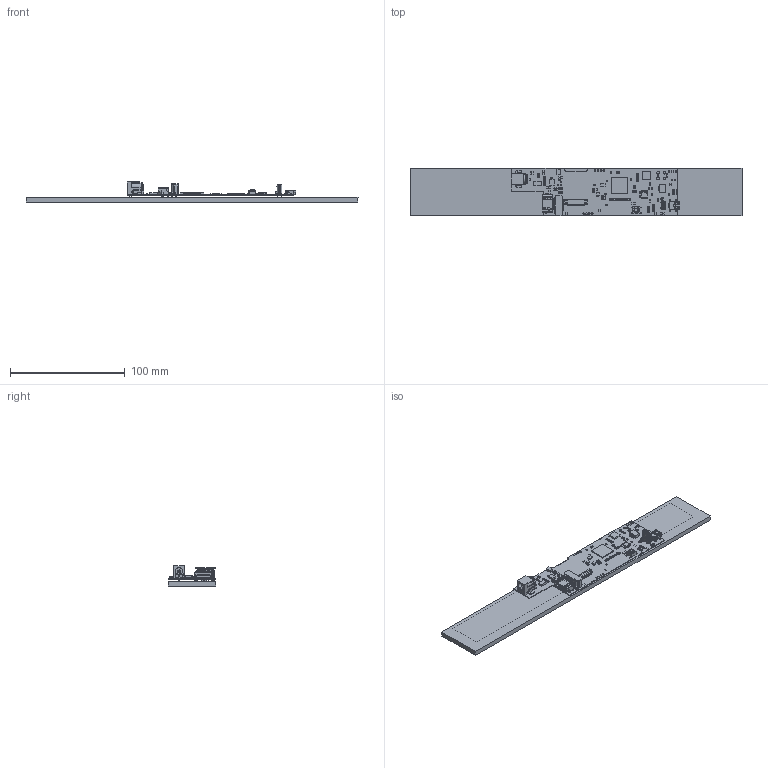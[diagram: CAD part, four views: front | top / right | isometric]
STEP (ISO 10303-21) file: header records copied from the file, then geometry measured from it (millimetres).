
FILE_DESCRIPTION(/* description */ (''),/* implementation_level */ '2;1');
FILE_NAME(/* name */ 'C:/Documents (New)/trunk/Drawings/HTT104/HTT104A-TPN.step',/* time_stamp */ '2018-01-26T13:27:10-07:00',/* author */ ('supportL2JBS'),/* organization */ (''),/* preprocessor_version */ 'ST-DEVELOPER v16.13',/* originating_system */ 'Autodesk Translation Framework v6.5.0.72',/* authorisation */ '');
FILE_SCHEMA (('AUTOMOTIVE_DESIGN { 1 0 10303 214 3 1 1 }'));
Products named in the file (196): HTT104A; Board; J3; 476591002; Open CASCADE STEP translator 6.2 2.2.1; Open CASCADE STEP translator 6.2 2.2.1 (1); J4; FCI_10029449-001LF; 10029450; 10029451_001_ASM; 10029452-001_FLAT; 10029452-001_FLAT_1; 10029452-001_FLAT_2; 10029452-001_FLAT_3; 10029452-001_FLAT_4; 10029452-001_FLAT_5; 10029452-001_FLAT_6; 10029452-001_FLAT_7; 10029452-001_FLAT_8; 10029452-001_FLAT_9; 10029452-002_FLAT; 10029452-002_FLAT_1; 10029452-002_FLAT_2; 10029452-002_FLAT_3; 10029452-002_FLAT_4; 10029452-002_FLAT_5; 10029452-002_FLAT_6; 10029452-002_FLAT_7; 10029452-002_FLAT_8; J1; CUI-PJ-036AH-SMT; U2; 824934592; Extruded; U8; R6; R4; R5; R3; R34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
Assembly tree (299 placements, depth 5):
  HTT104A
    Board
    J3
      476591002
        Open CASCADE STEP translator 6.2 2.2.1
        Open CASCADE STEP translator 6.2 2.2.1 (1)
    J4
      FCI_10029449-001LF
        10029450
        10029451_001_ASM
        10029452-001_FLAT
        10029452-001_FLAT_1
        10029452-001_FLAT_2
        10029452-001_FLAT_3
        10029452-001_FLAT_4
        10029452-001_FLAT_5
        10029452-001_FLAT_6
        10029452-001_FLAT_7
        10029452-001_FLAT_8
        10029452-001_FLAT_9
        10029452-002_FLAT
        10029452-002_FLAT_1
        10029452-002_FLAT_2
        10029452-002_FLAT_3
        10029452-002_FLAT_4
        10029452-002_FLAT_5
        10029452-002_FLAT_6
        10029452-002_FLAT_7
        10029452-002_FLAT_8
    J1
      CUI-PJ-036AH-SMT
    U2
      824934592
        Extruded
    U8
      824934080
        Extruded (1)
    R6
      RES_0603
        User_Library-RES_0603L_RES_0603_Lead_1  x2
        User_Library-RES_0603L_RES_0603_Body_1
    R4
      RES_0603
        User_Library-RES_0603L_RES_0603_Lead_1  x2
        User_Library-RES_0603L_RES_0603_Body_1
    R5
      RES_0603
        User_Library-RES_0603L_RES_0603_Lead_1  x2
        User_Library-RES_0603L_RES_0603_Body_1
    R3
      RES_0603
        User_Library-RES_0603L_RES_0603_Lead_1  x2
        User_Library-RES_0603L_RES_0603_Body_1
    R34
      RES_0603
        User_Library-RES_0603L_RES_0603_Lead_1  x2
        User_Library-RES_0603L_RES_0603_Body_1
    R33
      RES_0603
        User_Library-RES_0603L_RES_0603_Lead_1  x2
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Bounding box: 288.92 x 41.51 x 17.45 mm (x, y, z)
Volume: 53188.3 mm3; surface area: 65923.6 mm2
Topology: 254 solids, 255 shells, 11542 faces, 30962 edges, 19701 vertices
Faces by surface type: plane 7816, cylinder 1734, bspline 1606, sphere 327, cone 36, torus 23
Full cylindrical faces by diameter (mm): 0.562 x1, 0.7 x4, 0.711 x5, 0.991 x3, 1.2 x8, 1.3 x7, 2 x2, 2.375 x4, 3.5 x1, 6.3 x1
Entity records: 244311 total; most frequent: CARTESIAN_POINT 56727, ORIENTED_EDGE 39531, DIRECTION 36396, EDGE_CURVE 19766, LINE 16548, VECTOR 16548, VERTEX_POINT 12775, AXIS2_PLACEMENT_3D 9924
